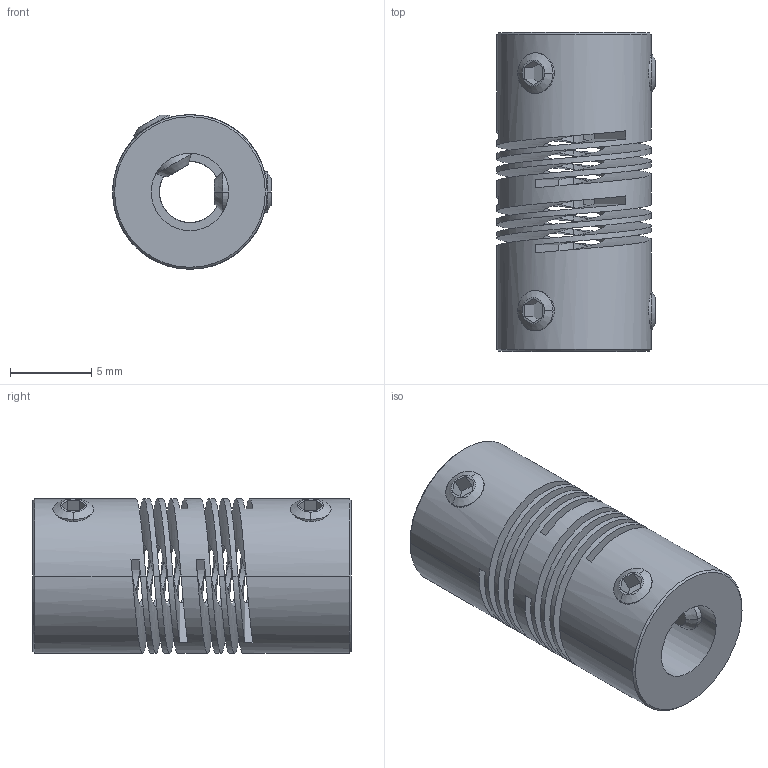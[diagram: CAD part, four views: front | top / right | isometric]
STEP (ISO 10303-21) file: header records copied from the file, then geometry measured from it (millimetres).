
FILE_DESCRIPTION((''),'2;1');
FILE_NAME('706_09_ASM','2006-12-06T',('Gary Melling'),(''),'PRO/ENGINEER BY PARAMETRIC TECHNOLOGY CORPORATION, 2006240','PRO/ENGINEER BY PARAMETRIC TECHNOLOGY CORPORATION, 2006240','');
FILE_SCHEMA(('CONFIG_CONTROL_DESIGN'));
Length unit declared in the file: millimetre
Products named in the file (3): 706_09; GS_2-5; 706_09_ASM
Assembly tree (5 placements, depth 2):
  706_09_ASM
    706_09
    GS_2-5  x4
Bounding box: 9.75 x 19.6 x 9.5 mm (x, y, z)
Volume: 894.4 mm3; surface area: 1890.8 mm2
Topology: 5 solids, 5 shells, 126 faces, 346 edges, 220 vertices
Faces by surface type: plane 52, cylinder 42, cone 20, bspline 12
Entity records: 5013 total; most frequent: CARTESIAN_POINT 2852, ORIENTED_EDGE 500, DIRECTION 336, EDGE_CURVE 250, VERTEX_POINT 160, VECTOR 126, LINE 126, AXIS2_PLACEMENT_3D 105
